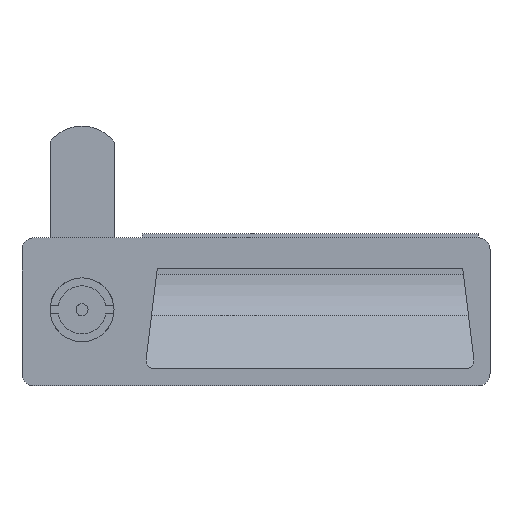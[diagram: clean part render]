
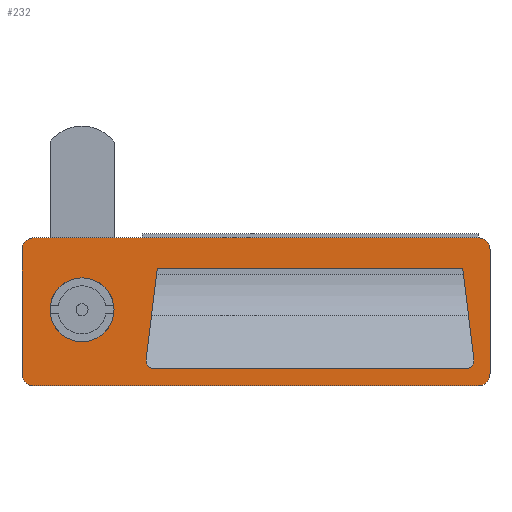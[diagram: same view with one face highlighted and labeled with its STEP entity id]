
A CAD part, top view. The second image highlights one B-rep face of the part: STEP entity #232.
In plain terms, the highlighted planar face has unit normal (0, 0, 1).
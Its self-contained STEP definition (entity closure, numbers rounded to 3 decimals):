
#232 = ADVANCED_FACE( '', ( #394, #395, #396 ), #397, .T. );
#394 = FACE_BOUND( '', #588, .T. );
#395 = FACE_OUTER_BOUND( '', #589, .T. );
#396 = FACE_BOUND( '', #590, .T. );
#397 = PLANE( '', #591 );
#588 = EDGE_LOOP( '', ( #1151 ) );
#589 = EDGE_LOOP( '', ( #1152, #1153, #1154, #1155, #1156, #1157, #1158, #1159 ) );
#590 = EDGE_LOOP( '', ( #1160, #1161, #1162, #1163, #1164, #1165 ) );
#591 = AXIS2_PLACEMENT_3D( '', #1166, #1167, #1168 );
#1151 = ORIENTED_EDGE( '', *, *, #1409, .F. );
#1152 = ORIENTED_EDGE( '', *, *, #1532, .T. );
#1153 = ORIENTED_EDGE( '', *, *, #1533, .T. );
#1154 = ORIENTED_EDGE( '', *, *, #1534, .T. );
#1155 = ORIENTED_EDGE( '', *, *, #1535, .T. );
#1156 = ORIENTED_EDGE( '', *, *, #1536, .T. );
#1157 = ORIENTED_EDGE( '', *, *, #1537, .T. );
#1158 = ORIENTED_EDGE( '', *, *, #1538, .T. );
#1159 = ORIENTED_EDGE( '', *, *, #1539, .T. );
#1160 = ORIENTED_EDGE( '', *, *, #1491, .F. );
#1161 = ORIENTED_EDGE( '', *, *, #1492, .F. );
#1162 = ORIENTED_EDGE( '', *, *, #1482, .F. );
#1163 = ORIENTED_EDGE( '', *, *, #1485, .F. );
#1164 = ORIENTED_EDGE( '', *, *, #1487, .F. );
#1165 = ORIENTED_EDGE( '', *, *, #1489, .F. );
#1166 = CARTESIAN_POINT( '', ( -12., -16., 2. ) );
#1167 = DIRECTION( '', ( 0., 0., 1. ) );
#1168 = DIRECTION( '', ( 1., 0., 0. ) );
#1409 = EDGE_CURVE( '', #1667, #1667, #1668, .T. );
#1482 = EDGE_CURVE( '', #1784, #1786, #1787, .T. );
#1485 = EDGE_CURVE( '', #1789, #1784, #1791, .T. );
#1487 = EDGE_CURVE( '', #1792, #1789, #1794, .T. );
#1489 = EDGE_CURVE( '', #1795, #1792, #1797, .T. );
#1491 = EDGE_CURVE( '', #1798, #1795, #1800, .T. );
#1492 = EDGE_CURVE( '', #1786, #1798, #1801, .T. );
#1532 = EDGE_CURVE( '', #1867, #1868, #1869, .T. );
#1533 = EDGE_CURVE( '', #1868, #1870, #1871, .T. );
#1534 = EDGE_CURVE( '', #1870, #1872, #1873, .T. );
#1535 = EDGE_CURVE( '', #1872, #1874, #1875, .T. );
#1536 = EDGE_CURVE( '', #1874, #1876, #1877, .T. );
#1537 = EDGE_CURVE( '', #1876, #1878, #1879, .T. );
#1538 = EDGE_CURVE( '', #1878, #1880, #1881, .T. );
#1539 = EDGE_CURVE( '', #1880, #1867, #1882, .T. );
#1667 = VERTEX_POINT( '', #2065 );
#1668 = CIRCLE( '', #2066, 8. );
#1784 = VERTEX_POINT( '', #2230 );
#1786 = VERTEX_POINT( '', #2233 );
#1787 = LINE( '', #2234, #2235 );
#1789 = VERTEX_POINT( '', #2238 );
#1791 = LINE( '', #2241, #2242 );
#1792 = VERTEX_POINT( '', #2243 );
#1794 = CIRCLE( '', #2246, 2. );
#1795 = VERTEX_POINT( '', #2247 );
#1797 = LINE( '', #2250, #2251 );
#1798 = VERTEX_POINT( '', #2252 );
#1800 = CIRCLE( '', #2255, 2. );
#1801 = LINE( '', #2256, #2257 );
#1867 = VERTEX_POINT( '', #2348 );
#1868 = VERTEX_POINT( '', #2349 );
#1869 = LINE( '', #2350, #2351 );
#1870 = VERTEX_POINT( '', #2352 );
#1871 = CIRCLE( '', #2353, 3. );
#1872 = VERTEX_POINT( '', #2354 );
#1873 = LINE( '', #2355, #2356 );
#1874 = VERTEX_POINT( '', #2357 );
#1875 = CIRCLE( '', #2358, 3. );
#1876 = VERTEX_POINT( '', #2359 );
#1877 = LINE( '', #2360, #2361 );
#1878 = VERTEX_POINT( '', #2362 );
#1879 = CIRCLE( '', #2363, 3. );
#1880 = VERTEX_POINT( '', #2364 );
#1881 = LINE( '', #2365, #2366 );
#1882 = CIRCLE( '', #2367, 3. );
#2065 = CARTESIAN_POINT( '', ( 8., 0., 2. ) );
#2066 = AXIS2_PLACEMENT_3D( '', #2551, #2552, #2553 );
#2230 = CARTESIAN_POINT( '', ( 95.18, 10.26, 2. ) );
#2233 = CARTESIAN_POINT( '', ( 18.82, 10.26, 2. ) );
#2234 = CARTESIAN_POINT( '', ( 95.18, 10.26, 2. ) );
#2235 = VECTOR( '', #2672, 1000. );
#2238 = CARTESIAN_POINT( '', ( 97.975, -12.496, 2. ) );
#2241 = CARTESIAN_POINT( '', ( 97.975, -12.496, 2. ) );
#2242 = VECTOR( '', #2675, 1000. );
#2243 = CARTESIAN_POINT( '', ( 95.989, -14.74, 2. ) );
#2246 = AXIS2_PLACEMENT_3D( '', #2677, #2678, #2679 );
#2247 = CARTESIAN_POINT( '', ( 18.011, -14.74, 2. ) );
#2250 = CARTESIAN_POINT( '', ( 18.011, -14.74, 2. ) );
#2251 = VECTOR( '', #2681, 1000. );
#2252 = CARTESIAN_POINT( '', ( 16.025, -12.496, 2. ) );
#2255 = AXIS2_PLACEMENT_3D( '', #2683, #2684, #2685 );
#2256 = CARTESIAN_POINT( '', ( 18.82, 10.26, 2. ) );
#2257 = VECTOR( '', #2686, 1000. );
#2348 = CARTESIAN_POINT( '', ( -15., 15., 2. ) );
#2349 = CARTESIAN_POINT( '', ( -15., -16., 2. ) );
#2350 = CARTESIAN_POINT( '', ( -15., 15., 2. ) );
#2351 = VECTOR( '', #2754, 1000. );
#2352 = CARTESIAN_POINT( '', ( -12., -19., 2. ) );
#2353 = AXIS2_PLACEMENT_3D( '', #2755, #2756, #2757 );
#2354 = CARTESIAN_POINT( '', ( 99., -19., 2. ) );
#2355 = CARTESIAN_POINT( '', ( -12., -19., 2. ) );
#2356 = VECTOR( '', #2758, 1000. );
#2357 = CARTESIAN_POINT( '', ( 102., -16., 2. ) );
#2358 = AXIS2_PLACEMENT_3D( '', #2759, #2760, #2761 );
#2359 = CARTESIAN_POINT( '', ( 102., 15., 2. ) );
#2360 = CARTESIAN_POINT( '', ( 102., -16., 2. ) );
#2361 = VECTOR( '', #2762, 1000. );
#2362 = CARTESIAN_POINT( '', ( 99., 18., 2. ) );
#2363 = AXIS2_PLACEMENT_3D( '', #2763, #2764, #2765 );
#2364 = CARTESIAN_POINT( '', ( -12., 18., 2. ) );
#2365 = CARTESIAN_POINT( '', ( 99., 18., 2. ) );
#2366 = VECTOR( '', #2766, 1000. );
#2367 = AXIS2_PLACEMENT_3D( '', #2767, #2768, #2769 );
#2551 = CARTESIAN_POINT( '', ( 0., 0., 2. ) );
#2552 = DIRECTION( '', ( 0., 0., 1. ) );
#2553 = DIRECTION( '', ( 1., 0., 0. ) );
#2672 = DIRECTION( '', ( -1., 0., 0. ) );
#2675 = DIRECTION( '', ( -0.122, 0.993, 0. ) );
#2677 = CARTESIAN_POINT( '', ( 95.989, -12.74, 2. ) );
#2678 = DIRECTION( '', ( 0., 0., 1. ) );
#2679 = DIRECTION( '', ( 1., 0., 0. ) );
#2681 = DIRECTION( '', ( 1., 0., 0. ) );
#2683 = CARTESIAN_POINT( '', ( 18.011, -12.74, 2. ) );
#2684 = DIRECTION( '', ( 0., 0., 1. ) );
#2685 = DIRECTION( '', ( 1., 0., 0. ) );
#2686 = DIRECTION( '', ( -0.122, -0.993, 0. ) );
#2754 = DIRECTION( '', ( 0., -1., 0. ) );
#2755 = CARTESIAN_POINT( '', ( -12., -16., 2. ) );
#2756 = DIRECTION( '', ( 0., 0., 1. ) );
#2757 = DIRECTION( '', ( 1., 0., 0. ) );
#2758 = DIRECTION( '', ( 1., 0., 0. ) );
#2759 = CARTESIAN_POINT( '', ( 99., -16., 2. ) );
#2760 = DIRECTION( '', ( 0., 0., 1. ) );
#2761 = DIRECTION( '', ( 1., 0., 0. ) );
#2762 = DIRECTION( '', ( 0., 1., 0. ) );
#2763 = CARTESIAN_POINT( '', ( 99., 15., 2. ) );
#2764 = DIRECTION( '', ( 0., 0., 1. ) );
#2765 = DIRECTION( '', ( 1., 0., 0. ) );
#2766 = DIRECTION( '', ( -1., 0., 0. ) );
#2767 = CARTESIAN_POINT( '', ( -12., 15., 2. ) );
#2768 = DIRECTION( '', ( 0., 0., 1. ) );
#2769 = DIRECTION( '', ( 1., 0., 0. ) );
